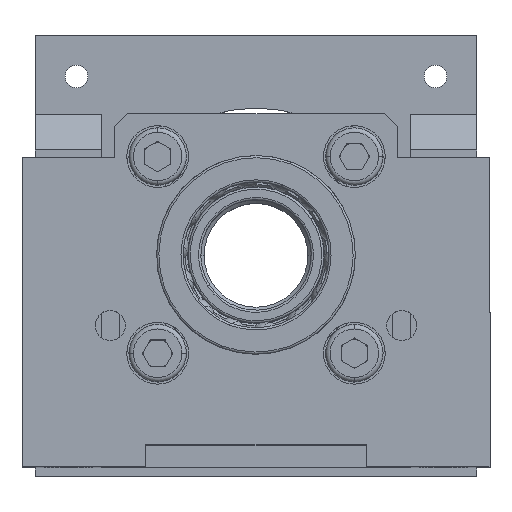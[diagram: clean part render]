
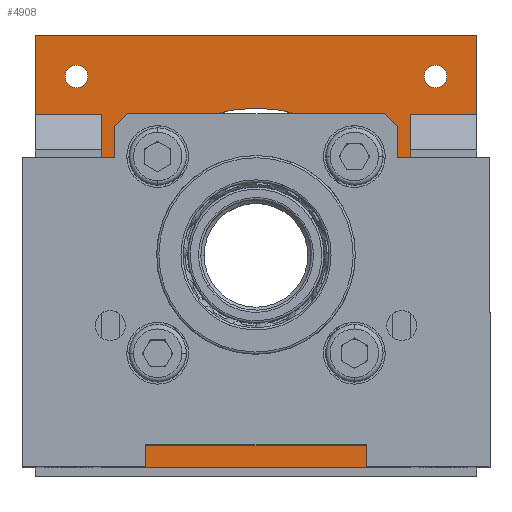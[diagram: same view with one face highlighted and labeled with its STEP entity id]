
A CAD part, top view. The second image highlights one B-rep face of the part: STEP entity #4908.
In plain terms, the highlighted planar face has unit normal (0, 0, 1).
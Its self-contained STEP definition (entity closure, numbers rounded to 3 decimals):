
#34 = CARTESIAN_POINT ( 'NONE',  ( -35., 22., -126. ) ) ;
#257 = DIRECTION ( 'NONE',  ( 0., 0., 1. ) ) ;
#356 = DIRECTION ( 'NONE',  ( 1., 0., 0. ) ) ;
#551 = EDGE_CURVE ( 'NONE', #4069, #2104, #1418, .T. ) ;
#608 = FACE_BOUND ( 'NONE', #7124, .T. ) ;
#639 = AXIS2_PLACEMENT_3D ( 'NONE', #2115, #2106, #2096 ) ;
#770 = ORIENTED_EDGE ( 'NONE', *, *, #7263, .T. ) ;
#779 = CARTESIAN_POINT ( 'NONE',  ( -50., -50., -126. ) ) ;
#819 = AXIS2_PLACEMENT_3D ( 'NONE', #4224, #9337, #4949 ) ;
#857 = AXIS2_PLACEMENT_3D ( 'NONE', #6460, #257, #356 ) ;
#891 = ORIENTED_EDGE ( 'NONE', *, *, #8776, .F. ) ;
#941 = VECTOR ( 'NONE', #5757, 1000. ) ;
#1234 = ORIENTED_EDGE ( 'NONE', *, *, #8505, .T. ) ;
#1260 = DIRECTION ( 'NONE',  ( 0., 0., -1. ) ) ;
#1418 = CIRCLE ( 'NONE', #857, 2.55 ) ;
#1463 = CARTESIAN_POINT ( 'NONE',  ( 35., 32., -126. ) ) ;
#1475 = AXIS2_PLACEMENT_3D ( 'NONE', #7540, #7420, #7406 ) ;
#1502 = VECTOR ( 'NONE', #2897, 1000. ) ;
#1601 = VECTOR ( 'NONE', #6352, 1000. ) ;
#1714 = CARTESIAN_POINT ( 'NONE',  ( 38.109, 40.659, -126. ) ) ;
#1717 = CARTESIAN_POINT ( 'NONE',  ( 35., -48., -126. ) ) ;
#2013 = DIRECTION ( 'NONE',  ( 1., 0., 0. ) ) ;
#2096 = DIRECTION ( 'NONE',  ( 1., 0., 0. ) ) ;
#2104 = VERTEX_POINT ( 'NONE', #5641 ) ;
#2106 = DIRECTION ( 'NONE',  ( 0., 0., 1. ) ) ;
#2115 = CARTESIAN_POINT ( 'NONE',  ( -40.659, 40.659, -126. ) ) ;
#2131 = CARTESIAN_POINT ( 'NONE',  ( 50., 50., -126. ) ) ;
#2132 = DIRECTION ( 'NONE',  ( 0., 0., -1. ) ) ;
#2200 = CARTESIAN_POINT ( 'NONE',  ( 0., 0., -126. ) ) ;
#2286 = VERTEX_POINT ( 'NONE', #3158 ) ;
#2466 = EDGE_CURVE ( 'NONE', #8207, #7187, #5667, .T. ) ;
#2491 = ORIENTED_EDGE ( 'NONE', *, *, #8761, .T. ) ;
#2502 = CARTESIAN_POINT ( 'NONE',  ( -35., -48., -126. ) ) ;
#2781 = FACE_OUTER_BOUND ( 'NONE', #5457, .T. ) ;
#2897 = DIRECTION ( 'NONE',  ( 1., 0., 0. ) ) ;
#3109 = EDGE_CURVE ( 'NONE', #8577, #7187, #9207, .T. ) ;
#3158 = CARTESIAN_POINT ( 'NONE',  ( 50., 50., -126. ) ) ;
#3199 = DIRECTION ( 'NONE',  ( 1., 0., 0. ) ) ;
#3265 = VECTOR ( 'NONE', #3199, 1000. ) ;
#3391 = CIRCLE ( 'NONE', #639, 2.55 ) ;
#3535 = CARTESIAN_POINT ( 'NONE',  ( -43.209, 40.659, -126. ) ) ;
#3661 = ORIENTED_EDGE ( 'NONE', *, *, #551, .F. ) ;
#3753 = VERTEX_POINT ( 'NONE', #6985 ) ;
#3974 = CARTESIAN_POINT ( 'NONE',  ( -33.5, 0., -126. ) ) ;
#3980 = VERTEX_POINT ( 'NONE', #4588 ) ;
#3994 = ORIENTED_EDGE ( 'NONE', *, *, #9282, .F. ) ;
#4069 = VERTEX_POINT ( 'NONE', #3535 ) ;
#4194 = CARTESIAN_POINT ( 'NONE',  ( 43.209, 40.659, -126. ) ) ;
#4224 = CARTESIAN_POINT ( 'NONE',  ( 40.659, 40.659, -126. ) ) ;
#4226 = ORIENTED_EDGE ( 'NONE', *, *, #5033, .F. ) ;
#4326 = AXIS2_PLACEMENT_3D ( 'NONE', #2200, #2132, #2013 ) ;
#4385 = LINE ( 'NONE', #779, #8345 ) ;
#4450 = DIRECTION ( 'NONE',  ( 0., 1., 0. ) ) ;
#4588 = CARTESIAN_POINT ( 'NONE',  ( -50., 32., -126. ) ) ;
#4694 = VERTEX_POINT ( 'NONE', #1714 ) ;
#4720 = DIRECTION ( 'NONE',  ( 0., -1., 0. ) ) ;
#4780 = CARTESIAN_POINT ( 'NONE',  ( -35., -48., -126. ) ) ;
#4796 = CARTESIAN_POINT ( 'NONE',  ( 50., -50., -126. ) ) ;
#4855 = LINE ( 'NONE', #5764, #941 ) ;
#4908 = ADVANCED_FACE ( 'NONE', ( #2781, #8239, #608, #6270 ), #7497, .T. ) ;
#4949 = DIRECTION ( 'NONE',  ( 1., 0., 0. ) ) ;
#4972 = EDGE_CURVE ( 'NONE', #5158, #4694, #7568, .T. ) ;
#5033 = EDGE_CURVE ( 'NONE', #3753, #3980, #4855, .T. ) ;
#5158 = VERTEX_POINT ( 'NONE', #4194 ) ;
#5333 = EDGE_CURVE ( 'NONE', #2104, #4069, #3391, .T. ) ;
#5428 = VECTOR ( 'NONE', #6891, 1000. ) ;
#5439 = AXIS2_PLACEMENT_3D ( 'NONE', #6476, #6468, #6455 ) ;
#5457 = EDGE_LOOP ( 'NONE', ( #8070, #6562, #8732, #7272, #3994, #4226, #770, #1234 ) ) ;
#5458 = CARTESIAN_POINT ( 'NONE',  ( 33.5, 0., -126. ) ) ;
#5498 = ORIENTED_EDGE ( 'NONE', *, *, #4972, .F. ) ;
#5585 = EDGE_LOOP ( 'NONE', ( #2491, #8855 ) ) ;
#5641 = CARTESIAN_POINT ( 'NONE',  ( -38.109, 40.659, -126. ) ) ;
#5667 = LINE ( 'NONE', #6878, #5428 ) ;
#5673 = CARTESIAN_POINT ( 'NONE',  ( 0., 0., -126. ) ) ;
#5757 = DIRECTION ( 'NONE',  ( -1., 0., 0. ) ) ;
#5764 = CARTESIAN_POINT ( 'NONE',  ( 0., 32., -126. ) ) ;
#5809 = CIRCLE ( 'NONE', #4326, 33.5 ) ;
#5823 = EDGE_CURVE ( 'NONE', #2286, #8577, #7337, .T. ) ;
#6270 = FACE_BOUND ( 'NONE', #5585, .T. ) ;
#6294 = CARTESIAN_POINT ( 'NONE',  ( 0., 32., -126. ) ) ;
#6352 = DIRECTION ( 'NONE',  ( -1., 0., 0. ) ) ;
#6396 = CIRCLE ( 'NONE', #819, 2.55 ) ;
#6447 = VERTEX_POINT ( 'NONE', #3974 ) ;
#6448 = DIRECTION ( 'NONE',  ( 1., 0., 0. ) ) ;
#6455 = DIRECTION ( 'NONE',  ( 1., 0., 0. ) ) ;
#6460 = CARTESIAN_POINT ( 'NONE',  ( -40.659, 40.659, -126. ) ) ;
#6468 = DIRECTION ( 'NONE',  ( 0., 0., 1. ) ) ;
#6476 = CARTESIAN_POINT ( 'NONE',  ( 40.659, 40.659, -126. ) ) ;
#6562 = ORIENTED_EDGE ( 'NONE', *, *, #3109, .F. ) ;
#6579 = VERTEX_POINT ( 'NONE', #8068 ) ;
#6601 = EDGE_LOOP ( 'NONE', ( #3661, #8080 ) ) ;
#6878 = CARTESIAN_POINT ( 'NONE',  ( 35., 22., -126. ) ) ;
#6891 = DIRECTION ( 'NONE',  ( 0., 1., 0. ) ) ;
#6985 = CARTESIAN_POINT ( 'NONE',  ( -35., 32., -126. ) ) ;
#7104 = VECTOR ( 'NONE', #4720, 1000. ) ;
#7124 = EDGE_LOOP ( 'NONE', ( #891, #5498 ) ) ;
#7187 = VERTEX_POINT ( 'NONE', #1463 ) ;
#7231 = LINE ( 'NONE', #2502, #3265 ) ;
#7263 = EDGE_CURVE ( 'NONE', #3753, #9470, #9452, .T. ) ;
#7272 = ORIENTED_EDGE ( 'NONE', *, *, #8943, .F. ) ;
#7337 = LINE ( 'NONE', #4796, #7104 ) ;
#7406 = DIRECTION ( 'NONE',  ( 1., 0., 0. ) ) ;
#7420 = DIRECTION ( 'NONE',  ( 0., 0., 1. ) ) ;
#7453 = LINE ( 'NONE', #2131, #1502 ) ;
#7483 = AXIS2_PLACEMENT_3D ( 'NONE', #5673, #1260, #6448 ) ;
#7497 = PLANE ( 'NONE',  #1475 ) ;
#7540 = CARTESIAN_POINT ( 'NONE',  ( 0., 0., -126. ) ) ;
#7568 = CIRCLE ( 'NONE', #5439, 2.55 ) ;
#7604 = VECTOR ( 'NONE', #9313, 1000. ) ;
#7646 = VERTEX_POINT ( 'NONE', #5458 ) ;
#8068 = CARTESIAN_POINT ( 'NONE',  ( -50., 50., -126. ) ) ;
#8070 = ORIENTED_EDGE ( 'NONE', *, *, #2466, .T. ) ;
#8080 = ORIENTED_EDGE ( 'NONE', *, *, #5333, .F. ) ;
#8192 = EDGE_CURVE ( 'NONE', #7646, #6447, #5809, .T. ) ;
#8207 = VERTEX_POINT ( 'NONE', #1717 ) ;
#8239 = FACE_BOUND ( 'NONE', #6601, .T. ) ;
#8345 = VECTOR ( 'NONE', #4450, 1000. ) ;
#8505 = EDGE_CURVE ( 'NONE', #9470, #8207, #7231, .T. ) ;
#8577 = VERTEX_POINT ( 'NONE', #9035 ) ;
#8732 = ORIENTED_EDGE ( 'NONE', *, *, #5823, .F. ) ;
#8761 = EDGE_CURVE ( 'NONE', #6447, #7646, #9227, .T. ) ;
#8776 = EDGE_CURVE ( 'NONE', #4694, #5158, #6396, .T. ) ;
#8855 = ORIENTED_EDGE ( 'NONE', *, *, #8192, .T. ) ;
#8943 = EDGE_CURVE ( 'NONE', #6579, #2286, #7453, .T. ) ;
#9035 = CARTESIAN_POINT ( 'NONE',  ( 50., 32., -126. ) ) ;
#9207 = LINE ( 'NONE', #6294, #1601 ) ;
#9227 = CIRCLE ( 'NONE', #7483, 33.5 ) ;
#9282 = EDGE_CURVE ( 'NONE', #3980, #6579, #4385, .T. ) ;
#9313 = DIRECTION ( 'NONE',  ( 0., -1., 0. ) ) ;
#9337 = DIRECTION ( 'NONE',  ( 0., 0., 1. ) ) ;
#9452 = LINE ( 'NONE', #34, #7604 ) ;
#9470 = VERTEX_POINT ( 'NONE', #4780 ) ;
